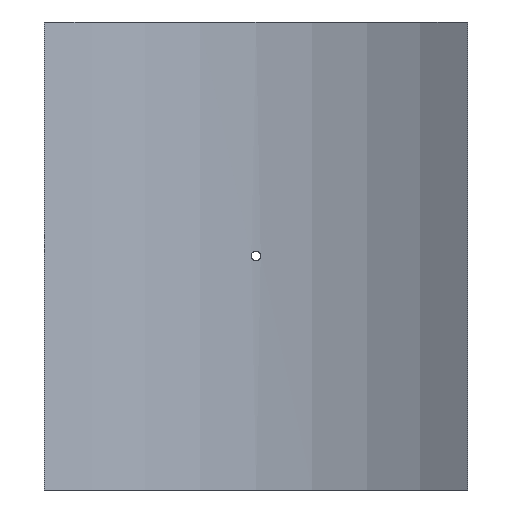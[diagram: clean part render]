
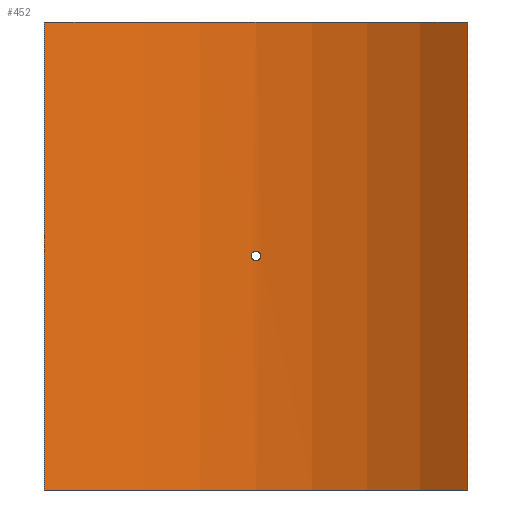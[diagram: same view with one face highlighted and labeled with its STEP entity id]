
A CAD part, front view. The second image highlights one B-rep face of the part: STEP entity #452.
In plain terms, the highlighted cylindrical face has radius 355 mm (diameter 710 mm), a partial arc.
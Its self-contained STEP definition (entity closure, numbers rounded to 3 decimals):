
#19=B_SPLINE_CURVE_WITH_KNOTS('',3,(#788,#789,#790,#791,#792,#793,#794,
#795,#796,#797,#798,#799,#800,#801,#802,#803,#804,#805,#806,#807,#808,#809,
#810,#811,#812,#813,#814,#815,#816,#817,#818,#819,#820,#821),
 .UNSPECIFIED.,.T.,.F.,(4,2,2,2,2,2,2,2,2,2,2,2,2,2,2,2,4),(0.,0.181,
0.362,0.542,0.723,0.904,
1.085,1.266,1.446,1.627,1.808,
1.989,2.17,2.351,2.531,2.712,
2.893),.UNSPECIFIED.);
#43=LINE('',#1065,#62);
#44=LINE('',#1068,#63);
#62=VECTOR('',#661,10.);
#63=VECTOR('',#664,10.);
#76=CYLINDRICAL_SURFACE('',#530,355.);
#88=FACE_BOUND('',#167,.T.);
#127=FACE_OUTER_BOUND('',#166,.T.);
#166=EDGE_LOOP('',(#405,#406,#407,#408));
#167=EDGE_LOOP('',(#409));
#201=CIRCLE('',#529,355.);
#202=CIRCLE('',#531,355.);
#219=VERTEX_POINT('',#786);
#242=VERTEX_POINT('',#1058);
#243=VERTEX_POINT('',#1060);
#244=VERTEX_POINT('',#1064);
#245=VERTEX_POINT('',#1066);
#267=EDGE_CURVE('',#219,#219,#19,.T.);
#299=EDGE_CURVE('',#242,#243,#201,.T.);
#301=EDGE_CURVE('',#244,#242,#43,.T.);
#302=EDGE_CURVE('',#245,#244,#202,.T.);
#303=EDGE_CURVE('',#245,#243,#44,.T.);
#405=ORIENTED_EDGE('',*,*,#301,.F.);
#406=ORIENTED_EDGE('',*,*,#302,.F.);
#407=ORIENTED_EDGE('',*,*,#303,.T.);
#408=ORIENTED_EDGE('',*,*,#299,.F.);
#409=ORIENTED_EDGE('',*,*,#267,.T.);
#452=ADVANCED_FACE('',(#127,#88),#76,.F.);
#529=AXIS2_PLACEMENT_3D('',#1061,#656,#657);
#530=AXIS2_PLACEMENT_3D('',#1063,#659,#660);
#531=AXIS2_PLACEMENT_3D('',#1067,#662,#663);
#656=DIRECTION('center_axis',(0.,0.,1.));
#657=DIRECTION('ref_axis',(0.599,0.801,0.));
#659=DIRECTION('center_axis',(0.,0.,1.));
#660=DIRECTION('ref_axis',(0.599,0.801,0.));
#661=DIRECTION('',(0.,0.,-1.));
#662=DIRECTION('center_axis',(0.,0.,-1.));
#663=DIRECTION('ref_axis',(0.599,0.801,0.));
#664=DIRECTION('',(0.,0.,-1.));
#786=CARTESIAN_POINT('',(4.8,354.968,0.));
#788=CARTESIAN_POINT('Ctrl Pts',(4.8,354.968,0.));
#789=CARTESIAN_POINT('Ctrl Pts',(4.8,354.968,-0.603));
#790=CARTESIAN_POINT('Ctrl Pts',(4.68,354.969,-1.246));
#791=CARTESIAN_POINT('Ctrl Pts',(4.19,354.975,-2.428));
#792=CARTESIAN_POINT('Ctrl Pts',(3.82,354.98,-2.968));
#793=CARTESIAN_POINT('Ctrl Pts',(2.968,354.988,-3.82));
#794=CARTESIAN_POINT('Ctrl Pts',(2.428,354.992,-4.19));
#795=CARTESIAN_POINT('Ctrl Pts',(1.246,354.998,-4.68));
#796=CARTESIAN_POINT('Ctrl Pts',(0.603,355.,-4.8));
#797=CARTESIAN_POINT('Ctrl Pts',(-0.603,355.,-4.8));
#798=CARTESIAN_POINT('Ctrl Pts',(-1.246,354.998,-4.68));
#799=CARTESIAN_POINT('Ctrl Pts',(-2.428,354.992,-4.19));
#800=CARTESIAN_POINT('Ctrl Pts',(-2.968,354.988,-3.82));
#801=CARTESIAN_POINT('Ctrl Pts',(-3.82,354.98,-2.968));
#802=CARTESIAN_POINT('Ctrl Pts',(-4.19,354.975,-2.428));
#803=CARTESIAN_POINT('Ctrl Pts',(-4.68,354.969,-1.246));
#804=CARTESIAN_POINT('Ctrl Pts',(-4.8,354.968,-0.603));
#805=CARTESIAN_POINT('Ctrl Pts',(-4.8,354.968,0.603));
#806=CARTESIAN_POINT('Ctrl Pts',(-4.68,354.969,1.246));
#807=CARTESIAN_POINT('Ctrl Pts',(-4.19,354.975,2.428));
#808=CARTESIAN_POINT('Ctrl Pts',(-3.82,354.98,2.968));
#809=CARTESIAN_POINT('Ctrl Pts',(-2.968,354.988,3.82));
#810=CARTESIAN_POINT('Ctrl Pts',(-2.428,354.992,4.19));
#811=CARTESIAN_POINT('Ctrl Pts',(-1.246,354.998,4.68));
#812=CARTESIAN_POINT('Ctrl Pts',(-0.603,355.,4.8));
#813=CARTESIAN_POINT('Ctrl Pts',(0.603,355.,4.8));
#814=CARTESIAN_POINT('Ctrl Pts',(1.246,354.998,4.68));
#815=CARTESIAN_POINT('Ctrl Pts',(2.428,354.992,4.19));
#816=CARTESIAN_POINT('Ctrl Pts',(2.968,354.988,3.82));
#817=CARTESIAN_POINT('Ctrl Pts',(3.82,354.98,2.968));
#818=CARTESIAN_POINT('Ctrl Pts',(4.19,354.975,2.428));
#819=CARTESIAN_POINT('Ctrl Pts',(4.68,354.969,1.246));
#820=CARTESIAN_POINT('Ctrl Pts',(4.8,354.968,0.603));
#821=CARTESIAN_POINT('Ctrl Pts',(4.8,354.968,0.));
#1058=CARTESIAN_POINT('',(212.5,284.374,-235.));
#1060=CARTESIAN_POINT('',(-212.5,284.374,-235.));
#1061=CARTESIAN_POINT('Origin',(0.,0.,
-235.));
#1063=CARTESIAN_POINT('Origin',(0.,0.,
0.));
#1064=CARTESIAN_POINT('',(212.5,284.374,235.));
#1065=CARTESIAN_POINT('',(212.5,284.374,0.));
#1066=CARTESIAN_POINT('',(-212.5,284.374,235.));
#1067=CARTESIAN_POINT('Origin',(0.,0.,
235.));
#1068=CARTESIAN_POINT('',(-212.5,284.374,0.));
